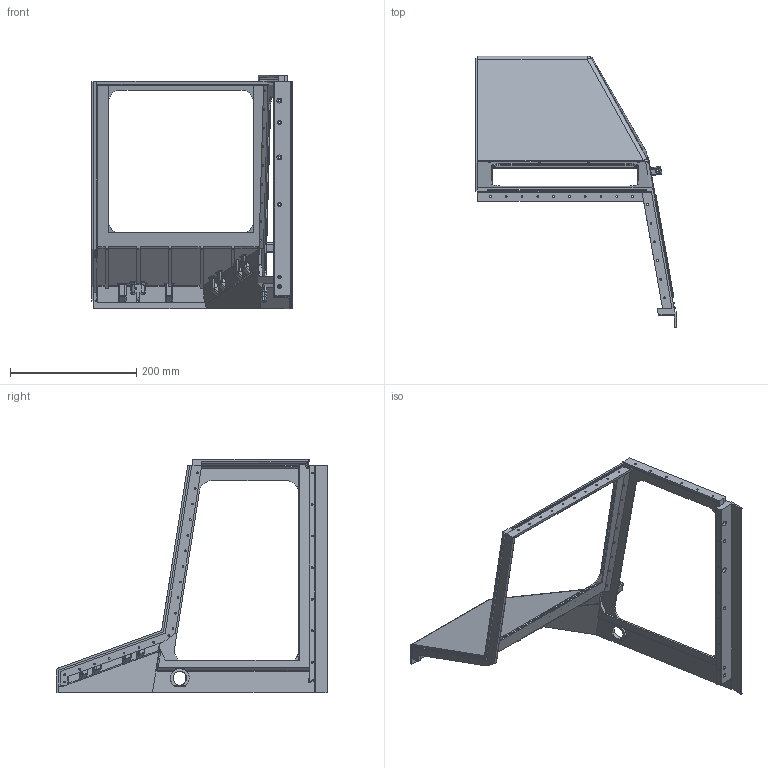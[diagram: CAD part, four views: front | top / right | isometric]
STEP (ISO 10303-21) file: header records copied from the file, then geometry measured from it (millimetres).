
FILE_DESCRIPTION(('STEP AP242 Edition 2','STEP AP242 Edition 2''CAx-IF Rec.Pracs.---Representation and Presentation of Product Manufacturing Information (PMI)---4.0---2014-10-13','STEP AP242 Edition 2''CAx-IF Rec.Pracs.---Representation and Presentation of Product Manufacturing Information (PMI)---4.0---2014-10-13''CAx-IF Rec.Pracs.---3D Tessellated Geometry---0.4---2014-09-14','STEP AP242 Edition 2''CAx-IF Rec.Pracs.---Representation and Presentation of Product Manufacturing Information (PMI)---4.0---2014-10-13''CAx-IF Rec.Pracs.---3D Tessellated Geometry---0.4---2014-09-14''2;1','STEP AP242 Edition 2''CAx-IF Rec.Pracs.---Representation and Presentation of Product Manufacturing Information (PMI)---4.0---2014-10-13''CAx-IF Rec.Pracs.---3D Tessellated Geometry---0.4---2014-09-14''2;1''CAx-IF Rec.Pracs.---User Defined Attributes---1.5---2016-08-15'),'2;1');
FILE_NAME('/vol/tmp/translate-5928582753522486027/Part Studio Body Front - Part Front Right Middle - Blue Car Color.step','2026-05-02T13:02:44',(''),(''),'ST-DEVELOPER v20','ONSHAPE BY PTC INC, 1.214',' ');
FILE_SCHEMA(('AP242_MANAGED_MODEL_BASED_3D_ENGINEERING_MIM_LF { 1 0 10303 442 3 1 4 }'));
Length unit declared in the file: metre
Products named in the file (1): Part Front Right Middle - Blue Car Color
Bounding box: 317 x 430 x 369.5 mm (x, y, z)
Volume: 660742.9 mm3; surface area: 342739.7 mm2
Topology: 1 solids, 1 shells, 774 faces, 1910 edges, 1215 vertices
Faces by surface type: plane 335, cylinder 268, cone 99, bspline 43, sphere 15, torus 14
Full cylindrical faces by diameter (mm): 2.75 x38, 3 x23, 4 x8, 5.6 x4, 6 x7, 6.8 x1, 8 x2
Entity records: 24143 total; most frequent: CARTESIAN_POINT 5613, DIRECTION 3875, ORIENTED_EDGE 3308, EDGE_CURVE 1654, AXIS2_PLACEMENT_3D 1532, FACE_BOUND 1194, EDGE_LOOP 1185, VERTEX_POINT 1168
